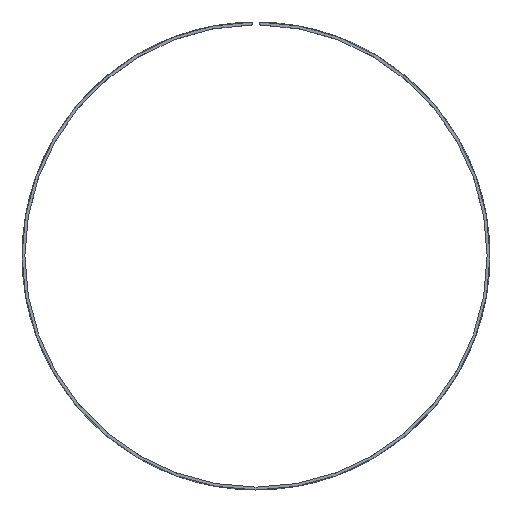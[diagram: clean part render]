
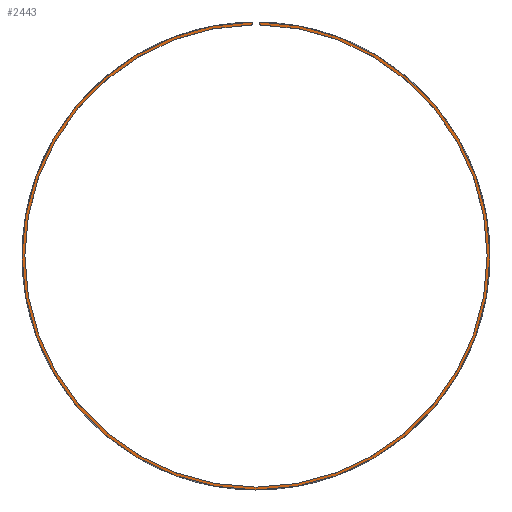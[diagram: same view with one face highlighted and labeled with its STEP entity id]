
A CAD part, top view. The second image highlights one B-rep face of the part: STEP entity #2443.
In plain terms, the highlighted planar face has unit normal (0, 0, 1).
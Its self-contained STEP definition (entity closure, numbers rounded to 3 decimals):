
#530 = LINE ( 'NONE', #12188, #14558 ) ;
#1086 = CIRCLE ( 'NONE', #37677, 327.5 ) ;
#1731 = ORIENTED_EDGE ( 'NONE', *, *, #36187, .T. ) ;
#1732 = AXIS2_PLACEMENT_3D ( 'NONE', #13370, #7432, #35914 ) ;
#1997 = VERTEX_POINT ( 'NONE', #24565 ) ;
#2443 = ADVANCED_FACE ( 'NONE', ( #2712 ), #29635, .T. ) ;
#2649 = VERTEX_POINT ( 'NONE', #4772 ) ;
#2712 = FACE_OUTER_BOUND ( 'NONE', #8641, .T. ) ;
#3134 = CARTESIAN_POINT ( 'NONE',  ( -5., 327.462, 70. ) ) ;
#3551 = VERTEX_POINT ( 'NONE', #4400 ) ;
#3891 = DIRECTION ( 'NONE',  ( 0., 0., -1. ) ) ;
#4106 = DIRECTION ( 'NONE',  ( 0., 0., -1. ) ) ;
#4400 = CARTESIAN_POINT ( 'NONE',  ( -327.5, 0., 70. ) ) ;
#4410 = VERTEX_POINT ( 'NONE', #13560 ) ;
#4772 = CARTESIAN_POINT ( 'NONE',  ( 5., 327.462, 70. ) ) ;
#5051 = AXIS2_PLACEMENT_3D ( 'NONE', #26401, #32490, #26016 ) ;
#5205 = EDGE_CURVE ( 'NONE', #4410, #1997, #20650, .T. ) ;
#5571 = DIRECTION ( 'NONE',  ( -0.015, 1., 0. ) ) ;
#5717 = DIRECTION ( 'NONE',  ( -1., 0., 0. ) ) ;
#5730 = EDGE_CURVE ( 'NONE', #10928, #2649, #530, .T. ) ;
#6176 = AXIS2_PLACEMENT_3D ( 'NONE', #23865, #32443, #5717 ) ;
#7432 = DIRECTION ( 'NONE',  ( 0., 0., -1. ) ) ;
#7813 = CIRCLE ( 'NONE', #1732, 331.5 ) ;
#7993 = VECTOR ( 'NONE', #5571, 1000. ) ;
#8641 = EDGE_LOOP ( 'NONE', ( #19613, #12264, #1731, #18481, #19090, #10312, #32673, #13490 ) ) ;
#8927 = DIRECTION ( 'NONE',  ( -0.015, -1., 0. ) ) ;
#9763 = CIRCLE ( 'NONE', #31106, 327.5 ) ;
#10312 = ORIENTED_EDGE ( 'NONE', *, *, #15011, .F. ) ;
#10928 = VERTEX_POINT ( 'NONE', #30247 ) ;
#11021 = CIRCLE ( 'NONE', #6176, 331.5 ) ;
#11114 = LINE ( 'NONE', #31738, #7993 ) ;
#12188 = CARTESIAN_POINT ( 'NONE',  ( 5.061, 331.461, 70. ) ) ;
#12264 = ORIENTED_EDGE ( 'NONE', *, *, #30675, .T. ) ;
#13370 = CARTESIAN_POINT ( 'NONE',  ( 0., 0., 70. ) ) ;
#13490 = ORIENTED_EDGE ( 'NONE', *, *, #5730, .T. ) ;
#13560 = CARTESIAN_POINT ( 'NONE',  ( -331.5, 0., 70. ) ) ;
#14558 = VECTOR ( 'NONE', #8927, 1000. ) ;
#14703 = EDGE_CURVE ( 'NONE', #25709, #1997, #11114, .T. ) ;
#15011 = EDGE_CURVE ( 'NONE', #19001, #4410, #11021, .T. ) ;
#18481 = ORIENTED_EDGE ( 'NONE', *, *, #14703, .T. ) ;
#19001 = VERTEX_POINT ( 'NONE', #25155 ) ;
#19090 = ORIENTED_EDGE ( 'NONE', *, *, #5205, .F. ) ;
#19262 = CARTESIAN_POINT ( 'NONE',  ( 0., 0., 70. ) ) ;
#19613 = ORIENTED_EDGE ( 'NONE', *, *, #37490, .T. ) ;
#20650 = CIRCLE ( 'NONE', #37727, 331.5 ) ;
#21583 = DIRECTION ( 'NONE',  ( -1., 0., 0. ) ) ;
#23169 = CIRCLE ( 'NONE', #30481, 327.5 ) ;
#23865 = CARTESIAN_POINT ( 'NONE',  ( 0., 0., 70. ) ) ;
#24565 = CARTESIAN_POINT ( 'NONE',  ( -5.061, 331.461, 70. ) ) ;
#24737 = CARTESIAN_POINT ( 'NONE',  ( 0., 0., 70. ) ) ;
#25155 = CARTESIAN_POINT ( 'NONE',  ( 331.5, 0., 70. ) ) ;
#25709 = VERTEX_POINT ( 'NONE', #3134 ) ;
#25966 = EDGE_CURVE ( 'NONE', #10928, #19001, #7813, .T. ) ;
#26016 = DIRECTION ( 'NONE',  ( 1., 0., 0. ) ) ;
#26055 = DIRECTION ( 'NONE',  ( -1., 0., 0. ) ) ;
#26401 = CARTESIAN_POINT ( 'NONE',  ( 0., 0., 70. ) ) ;
#27592 = CARTESIAN_POINT ( 'NONE',  ( 0., 0., 70. ) ) ;
#29635 = PLANE ( 'NONE',  #5051 ) ;
#30247 = CARTESIAN_POINT ( 'NONE',  ( 5.061, 331.461, 70. ) ) ;
#30481 = AXIS2_PLACEMENT_3D ( 'NONE', #19262, #33403, #21583 ) ;
#30675 = EDGE_CURVE ( 'NONE', #31310, #3551, #1086, .T. ) ;
#31106 = AXIS2_PLACEMENT_3D ( 'NONE', #24737, #4106, #33513 ) ;
#31310 = VERTEX_POINT ( 'NONE', #36798 ) ;
#31738 = CARTESIAN_POINT ( 'NONE',  ( -5., 327.462, 70. ) ) ;
#32353 = DIRECTION ( 'NONE',  ( 0., 0., -1. ) ) ;
#32443 = DIRECTION ( 'NONE',  ( 0., 0., -1. ) ) ;
#32490 = DIRECTION ( 'NONE',  ( 0., 0., 1. ) ) ;
#32673 = ORIENTED_EDGE ( 'NONE', *, *, #25966, .F. ) ;
#33403 = DIRECTION ( 'NONE',  ( 0., 0., -1. ) ) ;
#33513 = DIRECTION ( 'NONE',  ( -1., 0., 0. ) ) ;
#35785 = DIRECTION ( 'NONE',  ( -1., 0., 0. ) ) ;
#35914 = DIRECTION ( 'NONE',  ( -1., 0., 0. ) ) ;
#36187 = EDGE_CURVE ( 'NONE', #3551, #25709, #23169, .T. ) ;
#36798 = CARTESIAN_POINT ( 'NONE',  ( 327.5, 0., 70. ) ) ;
#37323 = CARTESIAN_POINT ( 'NONE',  ( 0., 0., 70. ) ) ;
#37490 = EDGE_CURVE ( 'NONE', #2649, #31310, #9763, .T. ) ;
#37677 = AXIS2_PLACEMENT_3D ( 'NONE', #37323, #32353, #26055 ) ;
#37727 = AXIS2_PLACEMENT_3D ( 'NONE', #27592, #3891, #35785 ) ;
